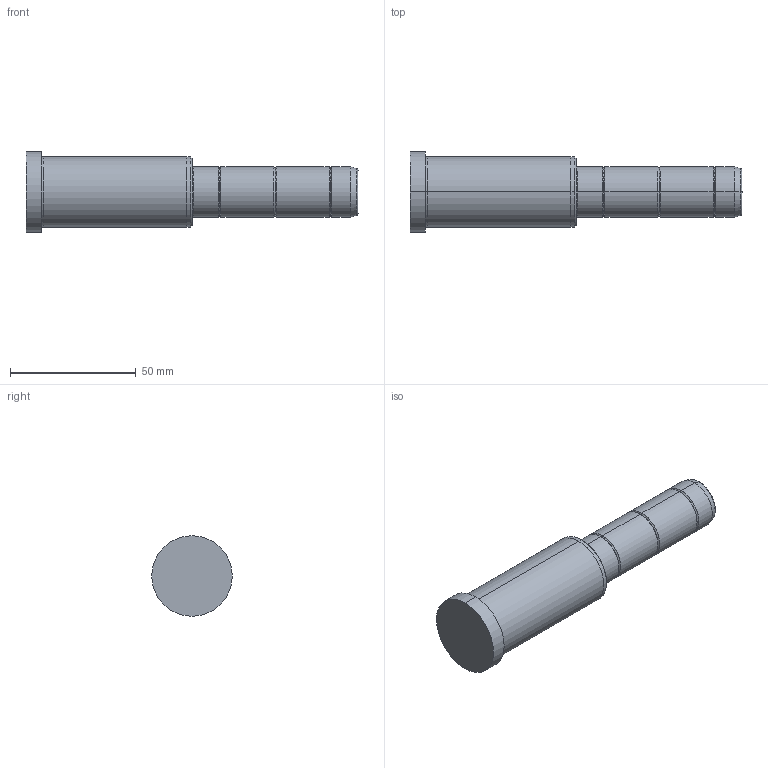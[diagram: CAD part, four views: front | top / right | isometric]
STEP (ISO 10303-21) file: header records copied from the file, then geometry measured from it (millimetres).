
FILE_DESCRIPTION( ( 'STEP AP203' ), '1' );
FILE_NAME( 'C:/Projects/D02 - 20x66x66.step', '2003-01-04T13:52:37', ( ' ' ), ( ' ' ), 'XStep 1.0', ' ', ' ' );
FILE_SCHEMA( ( 'CONFIG_CONTROL_DESIGN' ) );
Length unit declared in the file: metre
Products named in the file (1): 1
Bounding box: 132 x 32 x 32 mm (x, y, z)
Volume: 62395.2 mm3; surface area: 11637.5 mm2
Topology: 1 solids, 1 shells, 42 faces, 82 edges, 46 vertices
Faces by surface type: bspline 22, revolution 20
Entity records: 1325 total; most frequent: CARTESIAN_POINT 517, ORIENTED_EDGE 164, DIRECTION 134, EDGE_CURVE 82, AXIS2_PLACEMENT_3D 47, EDGE_LOOP 46, VERTEX_POINT 46, CIRCLE 46
